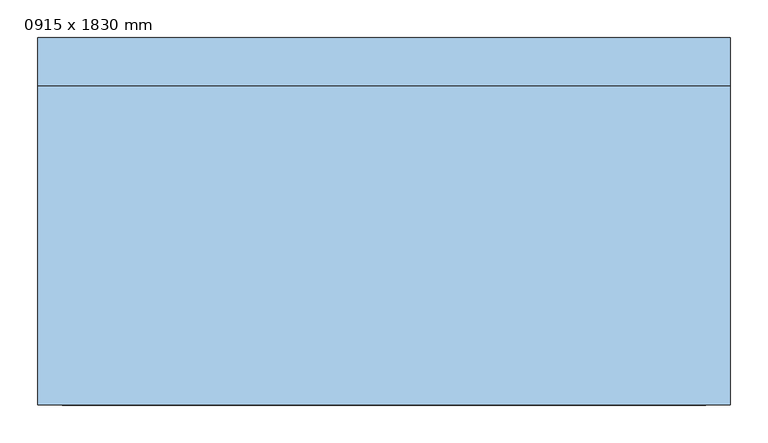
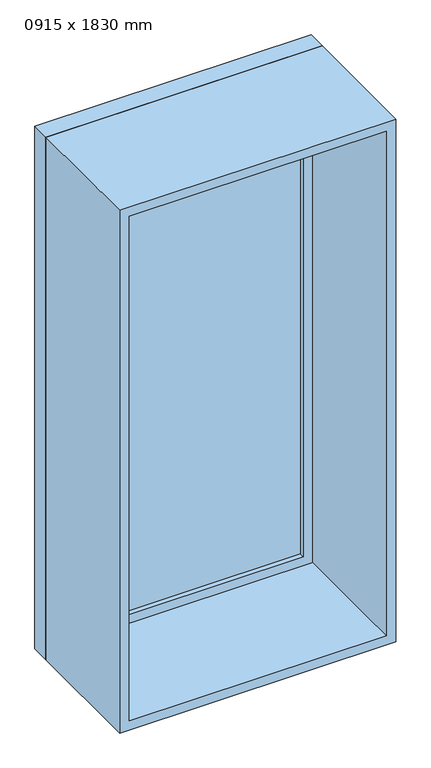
"""IFC4 building model written with IfcOpenShell, lengths in millimetres: window geometry, M_固定 : 0915 x 1830 mm."""

import ifcopenshell
import ifcopenshell.guid

model = None  # the IFC model being written
_history = None  # IfcOwnerHistory: only IFC2X3 demands one
_inside = {}  # id of a spatial element -> (the spatial element, [elements in it])
_under = {}  # id of a project, library or spatial element -> (it, [spatial elements below it])
_declared = {}  # id of a project -> (the project, [libraries it declares])
_typed = {}  # id of a type object -> (the type object, [elements of that type])
_made_of = {}  # id of a material, layer set ... -> (it, [elements and type objects made of it])


def new_model(schema):
    """Start an empty IFC model of exactly this schema.

    Asked for "IFC4X3", IfcOpenShell would pick the latest addendum, in which some entities
    have other attributes; the version numbers below select the first issue.
    IFC2X3 requires an IfcOwnerHistory on every rooted entity: one is made here for all.
    """
    global model, _history
    if schema == "IFC4X3":
        model = ifcopenshell.file(schema_version=(4, 3, 0, 0))
    else:
        model = ifcopenshell.file(schema=schema)
    _inside.clear()
    _under.clear()
    _declared.clear()
    _typed.clear()
    _made_of.clear()
    _history = None
    if model.schema == "IFC2X3":
        org = make("IfcOrganization", Name="unknown")
        user = make(
            "IfcPersonAndOrganization",
            ThePerson=make("IfcPerson", FamilyName="unknown"),
            TheOrganization=org,
        )
        app = make(
            "IfcApplication",
            ApplicationDeveloper=org,
            Version="unknown",
            ApplicationFullName="unknown",
            ApplicationIdentifier="unknown",
        )
        _history = make(
            "IfcOwnerHistory",
            OwningUser=user,
            OwningApplication=app,
            ChangeAction="ADDED",
            CreationDate=0,
        )
    return model


def make(cls, **values):
    """One entity of the class cls with the attributes given. An attribute that is None is left unset."""
    return model.create_entity(
        cls, **{name: value for name, value in values.items() if value is not None}
    )


def rooted(cls, **values):
    """An entity with a GlobalId (a new one), such as an element, a storey or a relation."""
    return make(cls, GlobalId=ifcopenshell.guid.new(), OwnerHistory=_history, **values)


def si_unit(unit_type, name, prefix=None):
    """IfcSIUnit, for example si_unit("LENGTHUNIT", "METRE", prefix="MILLI")."""
    return make("IfcSIUnit", UnitType=unit_type, Prefix=prefix, Name=name)


def assignment(units):
    """IfcUnitAssignment: the units of a project."""
    return None if units is None else make("IfcUnitAssignment", Units=units)


def point(xyz):
    """IfcCartesianPoint."""
    return None if xyz is None else make("IfcCartesianPoint", Coordinates=xyz)


def direction(xyz):
    """IfcDirection."""
    return None if xyz is None else make("IfcDirection", DirectionRatios=xyz)


def frame(location, z_axis=None, x_axis=None):
    """IfcAxis2Placement3D, a coordinate frame: its origin and axes. An axis left out is left unset."""
    return make(
        "IfcAxis2Placement3D",
        Location=point(location),
        Axis=direction(z_axis),
        RefDirection=direction(x_axis),
    )


def origin():
    """The frame at (0, 0, 0) with its axes left unset."""
    return frame((0.0, 0.0, 0.0))


def place(relative_to, where):
    """IfcLocalPlacement: puts the frame where relative to a parent placement (None: the world)."""
    return make(
        "IfcLocalPlacement", PlacementRelTo=relative_to, RelativePlacement=where
    )


def context(
    kind, dimensions, precision=None, world=None, true_north=None, identifier=None
):
    """IfcGeometricRepresentationContext, for example the 3D "Model" context."""
    return make(
        "IfcGeometricRepresentationContext",
        ContextIdentifier=identifier,
        ContextType=kind,
        CoordinateSpaceDimension=dimensions,
        Precision=precision,
        WorldCoordinateSystem=world,
        TrueNorth=true_north,
    )


def project(units=None, contexts=None):
    """IfcProject with its units and contexts."""
    return rooted(
        "IfcProject",
        Name="project",
        RepresentationContexts=contexts,
        UnitsInContext=assignment(units),
    )


def spatial(cls, under=None, at=None, **own):
    """A site, building, storey or space (cls), placed at a placement, below another one or the project."""
    s = rooted(cls, ObjectPlacement=at, **own)
    if under is not None:
        _under.setdefault(under.id(), (under, []))[1].append(s)
    return s


def polyline(points):
    """IfcPolyline through the points."""
    return make("IfcPolyline", Points=[point(p) for p in points])


def outline(outer, holes=None, kind="AREA"):
    """IfcArbitraryClosedProfileDef: a profile drawn as a closed curve; with holes, ...WithVoids."""
    if holes is None:
        return make("IfcArbitraryClosedProfileDef", ProfileType=kind, OuterCurve=outer)
    return make(
        "IfcArbitraryProfileDefWithVoids",
        ProfileType=kind,
        OuterCurve=outer,
        InnerCurves=holes,
    )


def extrude(swept, where, along, depth):
    """IfcExtrudedAreaSolid: the profile swept, set in the frame where, extruded along a direction by depth."""
    return make(
        "IfcExtrudedAreaSolid",
        SweptArea=swept,
        Position=where,
        ExtrudedDirection=direction(along),
        Depth=depth,
    )


def shape(context_of_items, identifier, shape_type, items):
    """IfcShapeRepresentation: the items that make up one representation, for example the "Body"."""
    return make(
        "IfcShapeRepresentation",
        ContextOfItems=context_of_items,
        RepresentationIdentifier=identifier,
        RepresentationType=shape_type,
        Items=items,
    )


def source(mapping_origin, context_of_items, identifier, shape_type, items):
    """IfcRepresentationMap: a shape defined once, which mapped items show again and again."""
    return make(
        "IfcRepresentationMap",
        MappingOrigin=mapping_origin,
        MappedRepresentation=shape(context_of_items, identifier, shape_type, items),
    )


def transform(
    local_origin,
    x_axis=None,
    y_axis=None,
    z_axis=None,
    scale=None,
    scale2=None,
    scale3=None,
    uniform=True,
):
    """IfcCartesianTransformationOperator3D, or its non-uniform kind. x_axis, y_axis, z_axis: its Axis1, 2, 3."""
    if uniform:
        return make(
            "IfcCartesianTransformationOperator3D",
            Axis1=direction(x_axis),
            Axis2=direction(y_axis),
            LocalOrigin=point(local_origin),
            Scale=scale,
            Axis3=direction(z_axis),
        )
    return make(
        "IfcCartesianTransformationOperator3DnonUniform",
        Axis1=direction(x_axis),
        Axis2=direction(y_axis),
        LocalOrigin=point(local_origin),
        Scale=scale,
        Axis3=direction(z_axis),
        Scale2=scale2,
        Scale3=scale3,
    )


def mapped(mapping_source, mapping_target):
    """IfcMappedItem: shows the shape of a source again, moved by a transform."""
    return make(
        "IfcMappedItem", MappingSource=mapping_source, MappingTarget=mapping_target
    )


def made_of(thing, what):
    """Note that an element or type object is made of a material, layer set ...; save() writes the relation."""
    if what is not None:
        _made_of.setdefault(what.id(), (what, []))[1].append(thing)
    return thing


def element(
    cls,
    number,
    at=None,
    inside=None,
    cuts=None,
    type_object=None,
    material=None,
    context=None,
    identifier="Body",
    shape_type=None,
    held_by="IfcProductDefinitionShape",
    body=None,
    shapes=None,
    **own,
):
    """One element of the class cls, such as IfcWall. Its Tag is "e" and its number.

    at: its placement. inside: the storey or other place that contains it. cuts: it is an
    opening in that element (IfcRelVoidsElement). A single representation is given by context,
    identifier, shape_type and body (its items); several are given by shapes. held_by: the class
    of the entity that holds the representations. save() writes the other relations.
    """
    e = rooted(cls, Tag="e%d" % number, ObjectPlacement=at, **own)
    if body is not None:
        shapes = [shape(context, identifier, shape_type, body)]
    if shapes is not None:
        e.Representation = make(held_by, Representations=shapes)
    if inside is not None:
        _inside.setdefault(inside.id(), (inside, []))[1].append(e)
    if cuts is not None:
        rooted(
            "IfcRelVoidsElement", RelatingBuildingElement=cuts, RelatedOpeningElement=e
        )
    if type_object is not None:
        _typed.setdefault(type_object.id(), (type_object, []))[1].append(e)
    return made_of(e, material)


def aggregate(whole, parts):
    """IfcRelAggregates: a whole, such as a stair, and the parts it consists of."""
    return rooted("IfcRelAggregates", RelatingObject=whole, RelatedObjects=parts)


def save(model, path):
    """Write the relations noted so far, then the file.

    IfcRelAggregates (storeys below a building ...), IfcRelContainedInSpatialStructure (elements
    in a storey), IfcRelDefinesByType, IfcRelAssociatesMaterial and IfcRelDeclares: one each for
    every whole, place, type object, material and project.
    """
    for whole, parts in _under.values():
        aggregate(whole, parts)
    for where, things in _inside.values():
        rooted(
            "IfcRelContainedInSpatialStructure",
            RelatedElements=things,
            RelatingStructure=where,
        )
    for kind, things in _typed.values():
        rooted("IfcRelDefinesByType", RelatedObjects=things, RelatingType=kind)
    for what, things in _made_of.values():
        rooted("IfcRelAssociatesMaterial", RelatedObjects=things, RelatingMaterial=what)
    for by, libraries in _declared.values():
        rooted("IfcRelDeclares", RelatingContext=by, RelatedDefinitions=libraries)
    model.write(path)


def window_0915_x_1830_mm_5bc68de5(model_context):
    return source(origin(), model_context, "Body", "SweptSolid", [
        extrude(outline(polyline([(-394.5, 220.8031119), (394.5, 220.8031119), (394.5, 208.8031119), (-394.5, 208.8031119), (-394.5, 220.8031119)])), frame((0.0, 0.0, 368.0), z_axis=(0.0, 0.0, 1.0), x_axis=(1.0, 0.0, 0.0)), (0.0, 0.0, 1.0), 1704.0),
        extrude(outline(polyline([(2116.0, -438.5), (324.0, -438.5), (324.0, 438.5), (2116.0, 438.5), (2116.0, -438.5)]), holes=[polyline([(2072.0, -394.5), (2072.0, 394.5), (368.0, 394.5), (368.0, -394.5), (2072.0, -394.5)])]), frame((0.0, 192.8031119, 0.0), z_axis=(0.0, 1.0, 0.0), x_axis=(0.0, 0.0, 1.0)), (0.0, 0.0, 1.0), 44.0),
        extrude(outline(polyline([(2135.0, -457.5), (305.0, -457.5), (305.0, 457.5), (2135.0, 457.5), (2135.0, -457.5)]), holes=[polyline([(2116.0, -438.5), (2116.0, 438.5), (324.0, 438.5), (324.0, -438.5), (2116.0, -438.5)])]), frame((0.0, 192.8031119, 0.0), z_axis=(0.0, 1.0, 0.0), x_axis=(0.0, 0.0, 1.0)), (0.0, 0.0, 1.0), 63.0),
        extrude(outline(polyline([(2135.0, -457.5), (305.0, -457.5), (305.0, 457.5), (2135.0, 457.5), (2135.0, -457.5)]), holes=[polyline([(2103.0, -425.5), (2103.0, 425.5), (337.0, 425.5), (337.0, -425.5), (2103.0, -425.5)])]), frame((0.0, -229.8031119, 0.0), z_axis=(0.0, 1.0, 0.0), x_axis=(0.0, 0.0, 1.0)), (0.0, 0.0, 1.0), 422.6062238),
    ])


if __name__ == "__main__":
    model = new_model("IFC4")
    model_context = context("Model", 3, world=origin())
    ifc_project = project(units=[si_unit("LENGTHUNIT", "METRE", prefix="MILLI")], contexts=[model_context])
    site = spatial("IfcSite", under=ifc_project)
    building = spatial("IfcBuilding", under=site)
    placement = place(None, origin())
    window_0915_x_1830_mm_shape = window_0915_x_1830_mm_5bc68de5(model_context)
    element("IfcWindow", 1, ObjectType="M_固定 : 0915 x 1830 mm", at=placement, inside=building, context=model_context, shape_type="MappedRepresentation", body=[
        mapped(window_0915_x_1830_mm_shape, transform((0.0, 0.0, 0.0), x_axis=(1.0, 0.0, 0.0), y_axis=(0.0, 1.0, 0.0), z_axis=(0.0, 0.0, 1.0))),
    ])
    save(model, "model.ifc")
